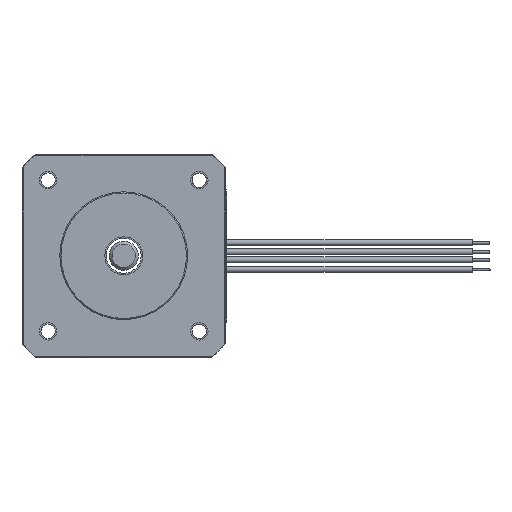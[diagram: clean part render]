
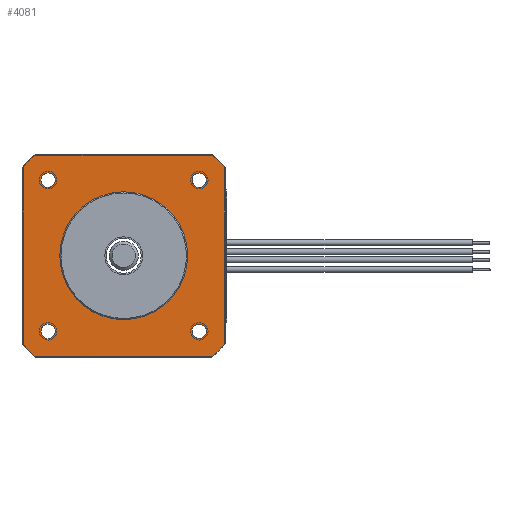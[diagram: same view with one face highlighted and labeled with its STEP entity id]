
A CAD part, left-side view. The second image highlights one B-rep face of the part: STEP entity #4081.
In plain terms, the highlighted planar face has unit normal (-1, 0, 0).
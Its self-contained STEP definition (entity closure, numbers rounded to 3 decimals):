
#2889=CARTESIAN_POINT('',(0.,-17.3,-15.308));
#2890=VERTEX_POINT('',#2889);
#2891=CARTESIAN_POINT('',(0.,-17.3,15.308));
#2892=VERTEX_POINT('',#2891);
#2893=CARTESIAN_POINT('',(0.,-17.3,-15.308));
#2894=DIRECTION('',(0.,0.,1.));
#2895=VECTOR('',#2894,30.615);
#2896=LINE('',#2893,#2895);
#2897=EDGE_CURVE('',#2890,#2892,#2896,.T.);
#2931=CARTESIAN_POINT('',(0.,-15.308,-17.3));
#2932=VERTEX_POINT('',#2931);
#2963=CARTESIAN_POINT('',(0.,0.,0.));
#2964=DIRECTION('',(0.,-0.663,-0.749));
#2965=DIRECTION('',(-1.,0.,0.));
#2966=AXIS2_PLACEMENT_3D('',#2963,#2965,#2964);
#2967=CIRCLE('',#2966,23.1);
#2968=EDGE_CURVE('',#2932,#2890,#2967,.T.);
#3174=CARTESIAN_POINT('',(0.,-15.308,17.3));
#3175=VERTEX_POINT('',#3174);
#3182=CARTESIAN_POINT('',(0.,0.,0.));
#3183=DIRECTION('',(0.,-0.749,0.663));
#3184=DIRECTION('',(-1.,0.,0.));
#3185=AXIS2_PLACEMENT_3D('',#3182,#3184,#3183);
#3186=CIRCLE('',#3185,23.1);
#3187=EDGE_CURVE('',#2892,#3175,#3186,.T.);
#3197=CARTESIAN_POINT('',(0.,-13.,11.75));
#3198=VERTEX_POINT('',#3197);
#3205=CARTESIAN_POINT('',(0.,-13.,14.25));
#3206=VERTEX_POINT('',#3205);
#3207=CARTESIAN_POINT('',(0.,-13.,13.));
#3208=DIRECTION('',(0.,0.,1.));
#3209=DIRECTION('',(1.,0.,0.));
#3210=AXIS2_PLACEMENT_3D('',#3207,#3209,#3208);
#3211=CIRCLE('',#3210,1.25);
#3212=EDGE_CURVE('',#3206,#3198,#3211,.T.);
#3283=CARTESIAN_POINT('',(0.,-13.,13.));
#3284=DIRECTION('',(0.,0.,-1.));
#3285=DIRECTION('',(1.,0.,-0.));
#3286=AXIS2_PLACEMENT_3D('',#3283,#3285,#3284);
#3287=CIRCLE('',#3286,1.25);
#3288=EDGE_CURVE('',#3198,#3206,#3287,.T.);
#3456=CARTESIAN_POINT('',(0.,11.75,13.));
#3457=VERTEX_POINT('',#3456);
#3464=CARTESIAN_POINT('',(0.,14.25,13.));
#3465=VERTEX_POINT('',#3464);
#3466=CARTESIAN_POINT('',(0.,13.,13.));
#3467=DIRECTION('',(0.,1.,0.));
#3468=DIRECTION('',(1.,0.,0.));
#3469=AXIS2_PLACEMENT_3D('',#3466,#3468,#3467);
#3470=CIRCLE('',#3469,1.25);
#3471=EDGE_CURVE('',#3465,#3457,#3470,.T.);
#3520=CARTESIAN_POINT('',(0.,13.,13.));
#3521=DIRECTION('',(0.,-1.,0.));
#3522=DIRECTION('',(1.,-0.,0.));
#3523=AXIS2_PLACEMENT_3D('',#3520,#3522,#3521);
#3524=CIRCLE('',#3523,1.25);
#3525=EDGE_CURVE('',#3457,#3465,#3524,.T.);
#3681=CARTESIAN_POINT('',(0.,13.,-11.75));
#3682=VERTEX_POINT('',#3681);
#3689=CARTESIAN_POINT('',(0.,13.,-14.25));
#3690=VERTEX_POINT('',#3689);
#3691=CARTESIAN_POINT('',(0.,13.,-13.));
#3692=DIRECTION('',(0.,0.,-1.));
#3693=DIRECTION('',(1.,0.,-0.));
#3694=AXIS2_PLACEMENT_3D('',#3691,#3693,#3692);
#3695=CIRCLE('',#3694,1.25);
#3696=EDGE_CURVE('',#3690,#3682,#3695,.T.);
#3760=CARTESIAN_POINT('',(0.,13.,-13.));
#3761=DIRECTION('',(0.,0.,1.));
#3762=DIRECTION('',(1.,0.,0.));
#3763=AXIS2_PLACEMENT_3D('',#3760,#3762,#3761);
#3764=CIRCLE('',#3763,1.25);
#3765=EDGE_CURVE('',#3682,#3690,#3764,.T.);
#3777=CARTESIAN_POINT('',(0.,15.308,-17.3));
#3778=VERTEX_POINT('',#3777);
#3779=CARTESIAN_POINT('',(0.,15.308,-17.3));
#3780=DIRECTION('',(0.,-1.,0.));
#3781=VECTOR('',#3780,30.615);
#3782=LINE('',#3779,#3781);
#3783=EDGE_CURVE('',#3778,#2932,#3782,.T.);
#3808=CARTESIAN_POINT('',(0.,17.3,-15.308));
#3809=VERTEX_POINT('',#3808);
#3833=CARTESIAN_POINT('',(0.,0.,0.));
#3834=DIRECTION('',(0.,0.749,-0.663));
#3835=DIRECTION('',(-1.,-0.,0.));
#3836=AXIS2_PLACEMENT_3D('',#3833,#3835,#3834);
#3837=CIRCLE('',#3836,23.1);
#3838=EDGE_CURVE('',#3809,#3778,#3837,.T.);
#3878=CARTESIAN_POINT('',(0.,-11.75,-13.));
#3879=VERTEX_POINT('',#3878);
#3886=CARTESIAN_POINT('',(0.,-14.25,-13.));
#3887=VERTEX_POINT('',#3886);
#3888=CARTESIAN_POINT('',(0.,-13.,-13.));
#3889=DIRECTION('',(0.,-1.,0.));
#3890=DIRECTION('',(1.,-0.,0.));
#3891=AXIS2_PLACEMENT_3D('',#3888,#3890,#3889);
#3892=CIRCLE('',#3891,1.25);
#3893=EDGE_CURVE('',#3887,#3879,#3892,.T.);
#3977=CARTESIAN_POINT('',(0.,-13.,-13.));
#3978=DIRECTION('',(0.,1.,0.));
#3979=DIRECTION('',(1.,0.,0.));
#3980=AXIS2_PLACEMENT_3D('',#3977,#3979,#3978);
#3981=CIRCLE('',#3980,1.25);
#3982=EDGE_CURVE('',#3879,#3887,#3981,.T.);
#4010=CARTESIAN_POINT('',(0.,0.,0.));
#4011=DIRECTION('',(0.,0.,-1.));
#4012=DIRECTION('',(-1.,-0.,-0.));
#4013=AXIS2_PLACEMENT_3D('',#4010,#4012,#4011);
#4014=PLANE('',#4013);
#4015=CARTESIAN_POINT('',(0.,17.3,15.308));
#4016=VERTEX_POINT('',#4015);
#4017=CARTESIAN_POINT('',(0.,17.3,15.308));
#4018=DIRECTION('',(0.,0.,-1.));
#4019=VECTOR('',#4018,30.615);
#4020=LINE('',#4017,#4019);
#4021=EDGE_CURVE('',#4016,#3809,#4020,.T.);
#4022=ORIENTED_EDGE('E25',*,*,#4021,.T.);
#4023=ORIENTED_EDGE('E25',*,*,#3838,.T.);
#4024=ORIENTED_EDGE('E25',*,*,#3783,.T.);
#4025=ORIENTED_EDGE('E25',*,*,#2968,.T.);
#4026=ORIENTED_EDGE('E25',*,*,#2897,.T.);
#4027=ORIENTED_EDGE('E25',*,*,#3187,.T.);
#4028=CARTESIAN_POINT('',(0.,15.308,17.3));
#4029=VERTEX_POINT('',#4028);
#4030=CARTESIAN_POINT('',(0.,-15.308,17.3));
#4031=DIRECTION('',(0.,1.,0.));
#4032=VECTOR('',#4031,30.615);
#4033=LINE('',#4030,#4032);
#4034=EDGE_CURVE('',#3175,#4029,#4033,.T.);
#4035=ORIENTED_EDGE('E31',*,*,#4034,.T.);
#4036=CARTESIAN_POINT('',(0.,0.,0.));
#4037=DIRECTION('',(0.,0.663,0.749));
#4038=DIRECTION('',(-1.,0.,-0.));
#4039=AXIS2_PLACEMENT_3D('',#4036,#4038,#4037);
#4040=CIRCLE('',#4039,23.1);
#4041=EDGE_CURVE('',#4029,#4016,#4040,.T.);
#4042=ORIENTED_EDGE('E32',*,*,#4041,.T.);
#4043=EDGE_LOOP('',(#4022,#4023,#4024,#4025,#4026,#4027,#4035,#4042));
#4044=FACE_OUTER_BOUND('',#4043,.T.);
#4045=CARTESIAN_POINT('',(0.,11.,0.));
#4046=VERTEX_POINT('',#4045);
#4047=CARTESIAN_POINT('',(0.,-11.,0.));
#4048=VERTEX_POINT('',#4047);
#4049=CARTESIAN_POINT('',(0.,0.,0.));
#4050=DIRECTION('',(0.,1.,0.));
#4051=DIRECTION('',(1.,0.,0.));
#4052=AXIS2_PLACEMENT_3D('',#4049,#4051,#4050);
#4053=CIRCLE('',#4052,11.);
#4054=EDGE_CURVE('',#4046,#4048,#4053,.T.);
#4055=ORIENTED_EDGE('E33',*,*,#4054,.T.);
#4056=CARTESIAN_POINT('',(0.,0.,0.));
#4057=DIRECTION('',(0.,-1.,0.));
#4058=DIRECTION('',(1.,-0.,0.));
#4059=AXIS2_PLACEMENT_3D('',#4056,#4058,#4057);
#4060=CIRCLE('',#4059,11.);
#4061=EDGE_CURVE('',#4048,#4046,#4060,.T.);
#4062=ORIENTED_EDGE('E34',*,*,#4061,.T.);
#4063=EDGE_LOOP('',(#4055,#4062));
#4064=FACE_BOUND('',#4063,.T.);
#4065=ORIENTED_EDGE('',*,*,#3982,.T.);
#4066=ORIENTED_EDGE('',*,*,#3893,.T.);
#4067=EDGE_LOOP('',(#4065,#4066));
#4068=FACE_BOUND('',#4067,.T.);
#4069=ORIENTED_EDGE('',*,*,#3765,.T.);
#4070=ORIENTED_EDGE('',*,*,#3696,.T.);
#4071=EDGE_LOOP('',(#4069,#4070));
#4072=FACE_BOUND('',#4071,.T.);
#4073=ORIENTED_EDGE('',*,*,#3525,.T.);
#4074=ORIENTED_EDGE('',*,*,#3471,.T.);
#4075=EDGE_LOOP('',(#4073,#4074));
#4076=FACE_BOUND('',#4075,.T.);
#4077=ORIENTED_EDGE('',*,*,#3288,.T.);
#4078=ORIENTED_EDGE('',*,*,#3212,.T.);
#4079=EDGE_LOOP('',(#4077,#4078));
#4080=FACE_BOUND('',#4079,.T.);
#4081=ADVANCED_FACE('F9',(#4044,#4064,#4068,#4072,#4076,#4080),#4014,.T.);
